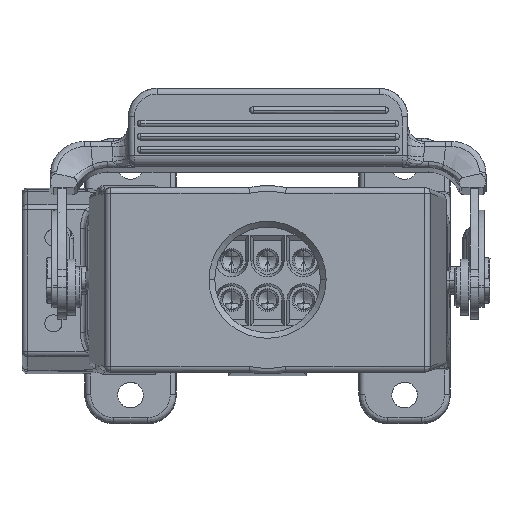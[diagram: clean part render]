
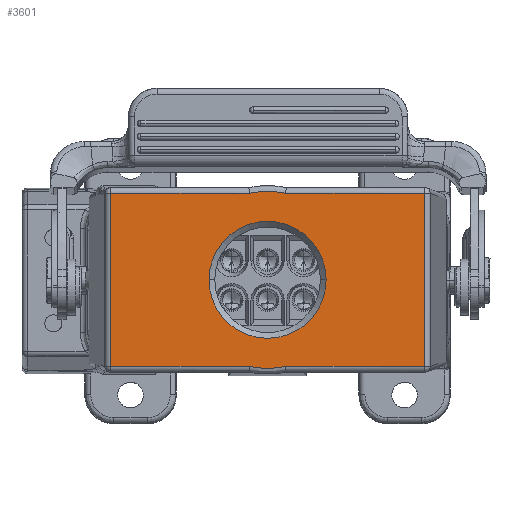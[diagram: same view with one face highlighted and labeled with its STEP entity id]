
A CAD part, top view. The second image highlights one B-rep face of the part: STEP entity #3601.
In plain terms, the highlighted planar face has unit normal (0, 0, 1).
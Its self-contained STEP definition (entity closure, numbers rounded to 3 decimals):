
#1661 = DIRECTION ( 'NONE',  ( 1., 0., 0. ) ) ;
#1961 = EDGE_CURVE ( 'NONE', #77931, #5459, #99598, .T. ) ;
#3499 = ORIENTED_EDGE ( 'NONE', *, *, #51443, .T. ) ;
#3601 = ADVANCED_FACE ( 'NONE', ( #110162, #43860 ), #53037, .F. ) ;
#4568 = VERTEX_POINT ( 'NONE', #59495 ) ;
#5459 = VERTEX_POINT ( 'NONE', #59696 ) ;
#7370 = EDGE_CURVE ( 'NONE', #5459, #26974, #20643, .T. ) ;
#9110 = LINE ( 'NONE', #116268, #111173 ) ;
#10269 = CARTESIAN_POINT ( 'NONE',  ( 36.524, 27.509, 129.075 ) ) ;
#11265 = VECTOR ( 'NONE', #1661, 1000. ) ;
#12195 = CARTESIAN_POINT ( 'NONE',  ( 33.348, 57.851, 129.075 ) ) ;
#12893 = EDGE_CURVE ( 'NONE', #95904, #74342, #128517, .T. ) ;
#17093 = EDGE_CURVE ( 'NONE', #86858, #4568, #39023, .T. ) ;
#17551 = DIRECTION ( 'NONE',  ( 1., 0., 0. ) ) ;
#17585 = DIRECTION ( 'NONE',  ( -1., 0., 0. ) ) ;
#20643 =( BOUNDED_CURVE ( )  B_SPLINE_CURVE ( 3, ( #45803, #78235, #129761, #33145 ),
 .UNSPECIFIED., .F., .F. ) 
 B_SPLINE_CURVE_WITH_KNOTS ( ( 4, 4 ),
 ( 0., 1. ),
 .UNSPECIFIED. ) 
 CURVE ( )  GEOMETRIC_REPRESENTATION_ITEM ( )  RATIONAL_B_SPLINE_CURVE ( ( 1., 0.986, 0.986, 1. ) ) 
 REPRESENTATION_ITEM ( '' )  );
#22280 = VECTOR ( 'NONE', #54423, 1000. ) ;
#23245 = DIRECTION ( 'NONE',  ( -1., 0., 0. ) ) ;
#24429 = DIRECTION ( 'NONE',  ( -1., 0., 0. ) ) ;
#26543 = ORIENTED_EDGE ( 'NONE', *, *, #12893, .F. ) ;
#26974 = VERTEX_POINT ( 'NONE', #127482 ) ;
#27970 = EDGE_CURVE ( 'NONE', #26974, #95904, #83113, .T. ) ;
#30721 = CARTESIAN_POINT ( 'NONE',  ( 32.274, 27.069, 129.075 ) ) ;
#32696 = ORIENTED_EDGE ( 'NONE', *, *, #7370, .F. ) ;
#33145 = CARTESIAN_POINT ( 'NONE',  ( 36.524, 57.851, 129.075 ) ) ;
#36559 = CARTESIAN_POINT ( 'NONE',  ( 60.84, 57.851, 129.075 ) ) ;
#36579 = EDGE_CURVE ( 'NONE', #74342, #37350, #138904, .T. ) ;
#36732 = AXIS2_PLACEMENT_3D ( 'NONE', #120630, #110745, #98756 ) ;
#37350 = VERTEX_POINT ( 'NONE', #56545 ) ;
#37970 = EDGE_CURVE ( 'NONE', #103803, #66544, #9110, .T. ) ;
#38545 = CARTESIAN_POINT ( 'NONE',  ( 60.84, 27.509, 129.075 ) ) ;
#38668 = ORIENTED_EDGE ( 'NONE', *, *, #27970, .F. ) ;
#39023 = CIRCLE ( 'NONE', #36732, 10.25 ) ;
#40777 = CARTESIAN_POINT ( 'NONE',  ( 5.856, 57.851, 129.075 ) ) ;
#43705 = CARTESIAN_POINT ( 'NONE',  ( 33.348, 27.509, 129.075 ) ) ;
#43860 = FACE_BOUND ( 'NONE', #106540, .T. ) ;
#45803 = CARTESIAN_POINT ( 'NONE',  ( 30.172, 57.851, 129.075 ) ) ;
#49437 = DIRECTION ( 'NONE',  ( 0., -1., 0. ) ) ;
#51443 = EDGE_CURVE ( 'NONE', #77931, #66544, #89694, .T. ) ;
#53037 = PLANE ( 'NONE',  #130272 ) ;
#54423 = DIRECTION ( 'NONE',  ( 0., -1., 0. ) ) ;
#55126 = CARTESIAN_POINT ( 'NONE',  ( 60.84, 26.994, 129.075 ) ) ;
#55403 = ORIENTED_EDGE ( 'NONE', *, *, #17093, .T. ) ;
#56545 = CARTESIAN_POINT ( 'NONE',  ( 36.524, 27.509, 129.075 ) ) ;
#59495 = CARTESIAN_POINT ( 'NONE',  ( 23.098, 42.68, 129.075 ) ) ;
#59696 = CARTESIAN_POINT ( 'NONE',  ( 30.172, 57.851, 129.075 ) ) ;
#61213 = CARTESIAN_POINT ( 'NONE',  ( 33.348, 57.851, 129.075 ) ) ;
#65848 = EDGE_CURVE ( 'NONE', #4568, #86858, #118402, .T. ) ;
#66544 = VERTEX_POINT ( 'NONE', #71257 ) ;
#71257 = CARTESIAN_POINT ( 'NONE',  ( 5.856, 27.509, 129.075 ) ) ;
#74342 = VERTEX_POINT ( 'NONE', #38545 ) ;
#77650 = ORIENTED_EDGE ( 'NONE', *, *, #1961, .F. ) ;
#77931 = VERTEX_POINT ( 'NONE', #40777 ) ;
#78235 = CARTESIAN_POINT ( 'NONE',  ( 32.274, 58.291, 129.075 ) ) ;
#83113 = LINE ( 'NONE', #61213, #110826 ) ;
#86858 = VERTEX_POINT ( 'NONE', #111536 ) ;
#88732 = EDGE_CURVE ( 'NONE', #37350, #103803, #117690, .T. ) ;
#89694 = LINE ( 'NONE', #124199, #136959 ) ;
#95904 = VERTEX_POINT ( 'NONE', #36559 ) ;
#96093 = DIRECTION ( 'NONE',  ( 0., 0., -1. ) ) ;
#98164 = AXIS2_PLACEMENT_3D ( 'NONE', #111176, #121058, #24429 ) ;
#98756 = DIRECTION ( 'NONE',  ( -1., 0., 0. ) ) ;
#98873 = DIRECTION ( 'NONE',  ( 0., -1., 0. ) ) ;
#99598 = LINE ( 'NONE', #12195, #11265 ) ;
#99923 = CARTESIAN_POINT ( 'NONE',  ( 30.172, 27.509, 129.075 ) ) ;
#103803 = VERTEX_POINT ( 'NONE', #99923 ) ;
#104201 = VECTOR ( 'NONE', #23245, 1000. ) ;
#106540 = EDGE_LOOP ( 'NONE', ( #55403, #119621 ) ) ;
#108945 = CARTESIAN_POINT ( 'NONE',  ( 30.172, 27.509, 129.075 ) ) ;
#110162 = FACE_OUTER_BOUND ( 'NONE', #136459, .T. ) ;
#110745 = DIRECTION ( 'NONE',  ( 0., 0., -1. ) ) ;
#110826 = VECTOR ( 'NONE', #17551, 1000. ) ;
#111173 = VECTOR ( 'NONE', #17585, 1000. ) ;
#111176 = CARTESIAN_POINT ( 'NONE',  ( 33.348, 42.68, 129.075 ) ) ;
#111536 = CARTESIAN_POINT ( 'NONE',  ( 43.598, 42.68, 129.075 ) ) ;
#114995 = ORIENTED_EDGE ( 'NONE', *, *, #36579, .F. ) ;
#116268 = CARTESIAN_POINT ( 'NONE',  ( 33.348, 27.509, 129.075 ) ) ;
#117690 =( BOUNDED_CURVE ( )  B_SPLINE_CURVE ( 3, ( #10269, #127323, #30721, #108945 ),
 .UNSPECIFIED., .F., .F. ) 
 B_SPLINE_CURVE_WITH_KNOTS ( ( 4, 4 ),
 ( 0., 1. ),
 .UNSPECIFIED. ) 
 CURVE ( )  GEOMETRIC_REPRESENTATION_ITEM ( )  RATIONAL_B_SPLINE_CURVE ( ( 1., 0.986, 0.986, 1. ) ) 
 REPRESENTATION_ITEM ( '' )  );
#118402 = CIRCLE ( 'NONE', #98164, 10.25 ) ;
#119621 = ORIENTED_EDGE ( 'NONE', *, *, #65848, .T. ) ;
#120630 = CARTESIAN_POINT ( 'NONE',  ( 33.348, 42.68, 129.075 ) ) ;
#121058 = DIRECTION ( 'NONE',  ( 0., 0., -1. ) ) ;
#124199 = CARTESIAN_POINT ( 'NONE',  ( 5.856, 42.68, 129.075 ) ) ;
#127323 = CARTESIAN_POINT ( 'NONE',  ( 34.422, 27.069, 129.075 ) ) ;
#127482 = CARTESIAN_POINT ( 'NONE',  ( 36.524, 57.851, 129.075 ) ) ;
#128517 = LINE ( 'NONE', #129909, #22280 ) ;
#129510 = ORIENTED_EDGE ( 'NONE', *, *, #88732, .F. ) ;
#129761 = CARTESIAN_POINT ( 'NONE',  ( 34.422, 58.291, 129.075 ) ) ;
#129909 = CARTESIAN_POINT ( 'NONE',  ( 60.84, 42.68, 129.075 ) ) ;
#130272 = AXIS2_PLACEMENT_3D ( 'NONE', #55126, #96093, #98873 ) ;
#136459 = EDGE_LOOP ( 'NONE', ( #129510, #114995, #26543, #38668, #32696, #77650, #3499, #137694 ) ) ;
#136959 = VECTOR ( 'NONE', #49437, 1000. ) ;
#137694 = ORIENTED_EDGE ( 'NONE', *, *, #37970, .F. ) ;
#138904 = LINE ( 'NONE', #43705, #104201 ) ;
